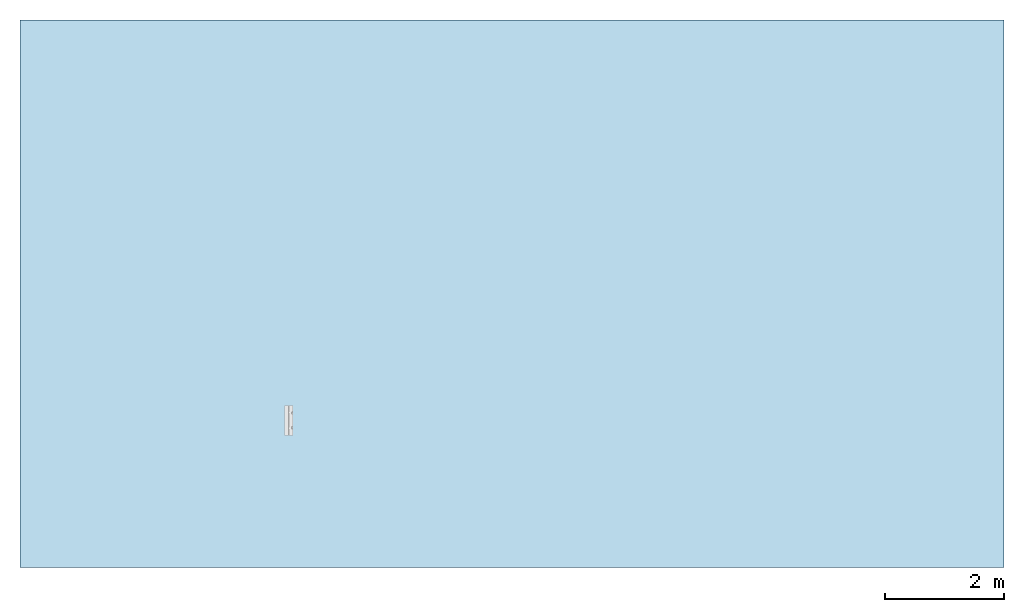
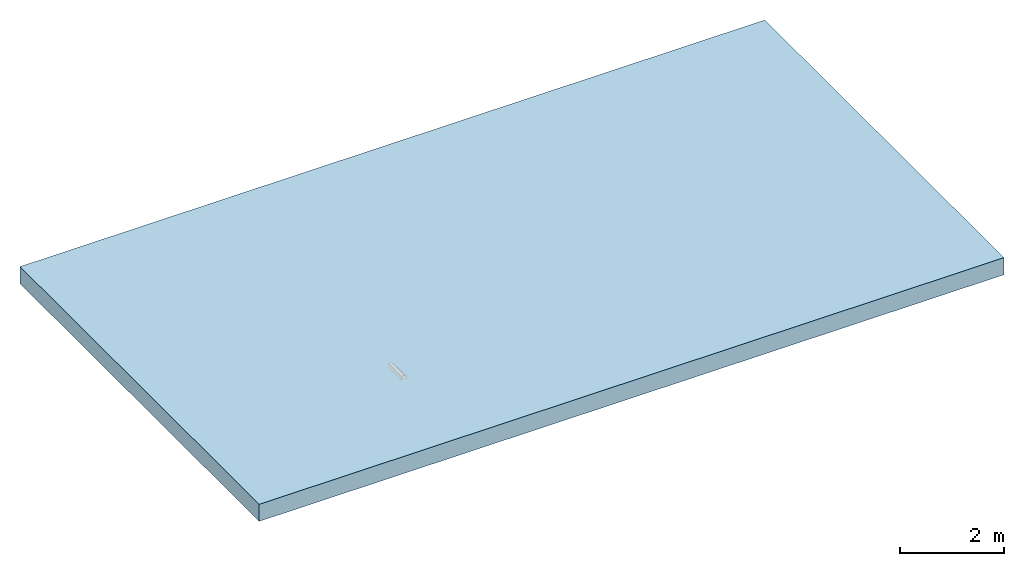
# One storey, part 1 of 2: 1 slab, 1 opening.
"""IFC2X3 building model written with IfcOpenShell, lengths in millimetres."""

from ifc_helpers import new_model, entity, si_unit, converted_unit, direction, frame, frame_2d, origin, place, context, subcontext, project, spatial, polyline, rectangle, outline, extrude, material, layer, layer_set, layer_usage, element, save


model = new_model("IFC2X3")

# Units and contexts
model_context = context("Model", 3, precision=1e-06, world=origin(), true_north=direction((2.0, 6.12303176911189e-17, 1.0)))
context_of_model = context(None, 3, precision=1e-06, world=origin(), true_north=direction((2.0, 6.12303176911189e-17, 1.0)))
body_context = subcontext(model_context, "Body", "Model", "MODEL_VIEW")
ifc_project = project(units=[si_unit("LENGTHUNIT", "METRE", prefix="MILLI"), si_unit("AREAUNIT", "SQUARE_METRE", prefix="MILLI"), si_unit("VOLUMEUNIT", "CUBIC_METRE", prefix="MILLI"), converted_unit("PLANEANGLEUNIT", "DEGREE", entity("IfcRatioMeasure", 0.0174532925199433), si_unit("PLANEANGLEUNIT", "RADIAN"), dimensions=[0, 0, 0, 0, 0, 0, 0]), si_unit("TIMEUNIT", "SECOND")], contexts=[model_context, context_of_model])

# Site, building, storey
site_placement = place(None, origin())
site = spatial("IfcSite", under=ifc_project, at=site_placement, Name="Default", CompositionType="ELEMENT")
building_placement = place(site_placement, origin())
building = spatial("IfcBuilding", under=site, at=building_placement, CompositionType="ELEMENT")
storey_placement = place(building_placement, origin())
storey = spatial("IfcBuildingStorey", under=building, at=storey_placement, Name="Level 1", CompositionType="ELEMENT", Elevation=0.0)

# Slab, opening
ifc_material = material(Name="Plant")
ifc_layer = layer(ifc_material, 400.0)
ifc_layer_set = layer_set([ifc_layer], Name="Floor:Generic Floor - 400mm")
ifc_layer_usage = layer_usage(ifc_layer_set, "AXIS3", "POSITIVE", 0.0)
slab_placement = place(storey_placement, frame((-17967.0691536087, -3738.31688706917, -400.0)))
slab = element("IfcSlab", 1, at=slab_placement, inside=storey, material=ifc_layer_usage, Name="Floor:Generic Floor - 400mm", ObjectType="Floor:Generic Floor - 400mm", PredefinedType="FLOOR", context=body_context, shape_type="SweptSolid", body=[
    extrude(rectangle(XDim=9180.0, YDim=16500.0, at=frame_2d((0.0, 0.0), x_axis=(0.0, -1.0))), frame((8250.0, 4590.0, 400.0), z_axis=(0.0, 0.0, -1.0), x_axis=(-1.0, 0.0, 0.0)), (0.0, 0.0, 1.0), 400.0),
])
opening_placement = place(slab_placement, origin())
element("IfcOpeningElement", 2, at=opening_placement, cuts=slab, ObjectType="Recess", context=body_context, shape_type="SweptSolid", body=[
    extrude(outline(polyline([(-250.08773539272, -166.249999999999), (249.91226460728, -166.249999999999), (249.91226460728, 13.7500000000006), (140.263206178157, 13.7500000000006), (140.263206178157, 138.749999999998), (-140.087735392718, 138.749999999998), (-140.087735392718, 13.7500000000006), (-250.08773539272, 13.7500000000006), (-250.08773539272, -166.249999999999)])), frame((4431.71857473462, 2466.34556071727, 386.249999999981), z_axis=(1.0, 0.0, 0.0), x_axis=(0.0, 1.0, 0.0)), (0.0, 0.0, 1.0), 1.99999999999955),
])

save(model, "model.ifc")
